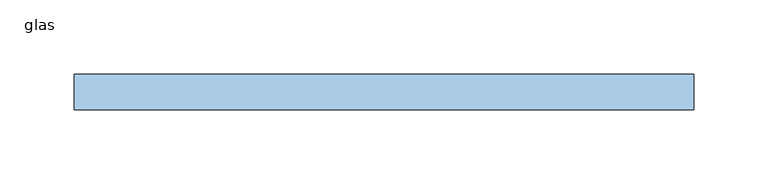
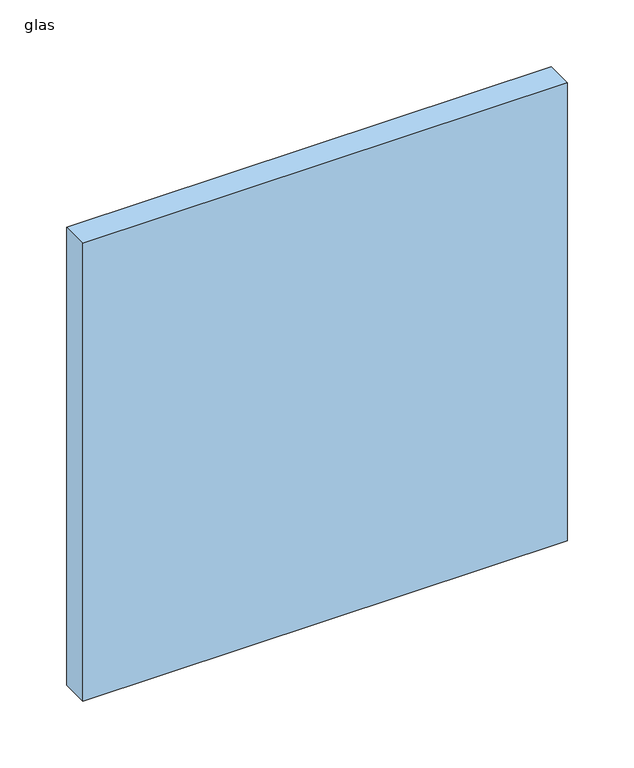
"""IFC4 building model written with IfcOpenShell, lengths in millimetres: window geometry, 300_31_ISR_vlakvulling : glas."""

from ifc_helpers import new_model, si_unit, origin, origin_with_axes, place, context, project, spatial, polyline, outline, extrude, source, transform, mapped, element, save


def glas_ab2ed760(model_context):
    return source(origin(), model_context, "Body", "SweptSolid", [
        extrude(outline(polyline([(-209.0, 20.3546226), (-209.0, 44.3546226), (209.0, 44.3546226), (209.0, 20.3546226), (-209.0, 20.3546226)])), origin_with_axes(), (0.0, 0.0, 1.0), 418.0),
    ])


if __name__ == "__main__":
    model = new_model("IFC4")
    model_context = context("Model", 3, world=origin())
    ifc_project = project(units=[si_unit("LENGTHUNIT", "METRE", prefix="MILLI")], contexts=[model_context])
    site = spatial("IfcSite", under=ifc_project)
    building = spatial("IfcBuilding", under=site)
    placement = place(None, origin())
    glas_shape = glas_ab2ed760(model_context)
    element("IfcWindow", 1, ObjectType="300_31_ISR_vlakvulling : glas", at=placement, inside=building, context=model_context, shape_type="MappedRepresentation", body=[
        mapped(glas_shape, transform((0.0, 0.0, 0.0), x_axis=(1.0, 0.0, 0.0), y_axis=(0.0, 1.0, 0.0), z_axis=(0.0, 0.0, 1.0))),
    ])
    save(model, "model.ifc")
